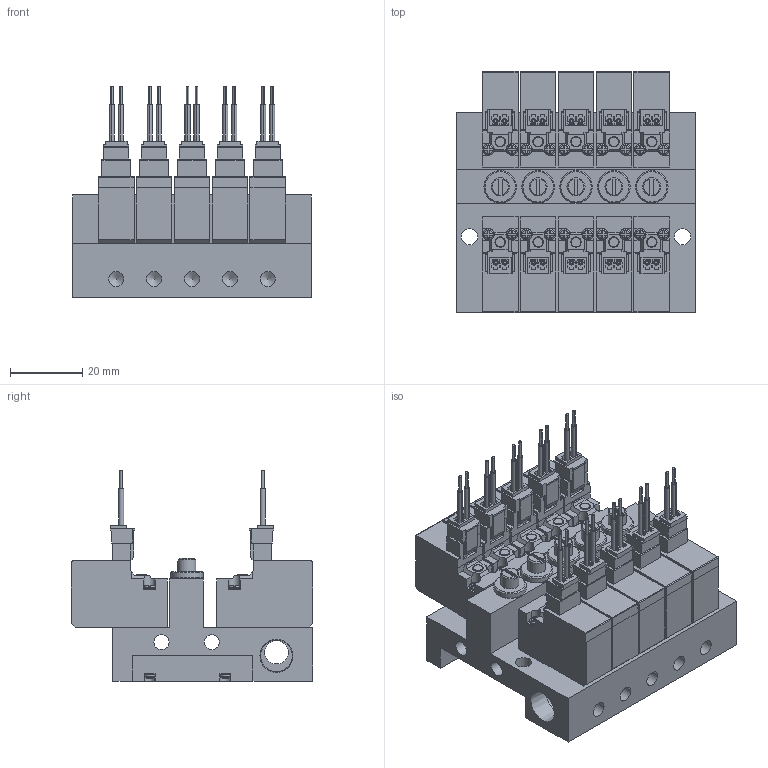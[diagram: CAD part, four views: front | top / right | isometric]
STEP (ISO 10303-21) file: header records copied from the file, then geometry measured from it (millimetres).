
FILE_DESCRIPTION(('STEP AP203'),'1');
FILE_NAME('3-NC-4EZ-M05.stp','2025-05-09T01:04:37',(' '),(' '),'Spatial InterOp 3D',' ',' ');
FILE_SCHEMA(('CONFIG_CONTROL_DESIGN'));
Length unit declared in the file: millimetre
Products named in the file (77): PV1※3-NC-4EZ-M05; BODY; PLATE; NEEDLE; BOLT; SOLENOID VALVE VOLTAGE PV; 42; 45; 48; 51
Assembly tree (76 placements, depth 3):
  PV1※3-NC-4EZ-M05
    BODY
    PLATE
    PLATE
    NEEDLE
    BOLT
    BOLT
    BOLT
    BOLT
    BOLT
    BOLT
    SOLENOID VALVE VOLTAGE PV
      42
      45
      48
      51
    SOLENOID VALVE VOLTAGE PV
      42
      45
      48
      51
    SOLENOID VALVE VOLTAGE PV
      42
      45
      48
      51
    NEEDLE
    SOLENOID VALVE VOLTAGE PV
      42
      45
      48
      51
    SOLENOID VALVE VOLTAGE PV
      42
      45
      48
      51
    NEEDLE
    SOLENOID VALVE VOLTAGE PV
      42
      45
      48
      51
    PLATE
    BOLT
    BOLT
    BOLT
    PLATE
    BOLT
    BOLT
    BOLT
    SOLENOID VALVE VOLTAGE PV
      42
      45
      48
      51
    NEEDLE
    SOLENOID VALVE VOLTAGE PV
      42
      45
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Bounding box: 66 x 66.8 x 58.25 mm (x, y, z)
Volume: 100551.9 mm3; surface area: 56903.5 mm2
Topology: 66 solids, 66 shells, 2420 faces, 6872 edges, 4741 vertices
Faces by surface type: plane 1706, cylinder 482, torus 130, bspline 70, cone 32
Full cylindrical faces by diameter (mm): 2 x15, 3 x15, 4.2 x12, 4.5 x2, 5 x5, 6.5 x1, 8.797 x2, 9 x5
Entity records: 83720 total; most frequent: CARTESIAN_POINT 15294, DIRECTION 13742, ORIENTED_EDGE 13414, EDGE_CURVE 6707, AXIS2_PLACEMENT_3D 4758, VERTEX_POINT 4690, LINE 4226, VECTOR 4226
